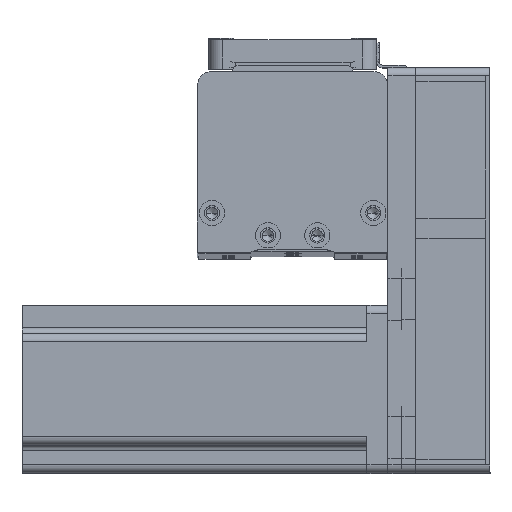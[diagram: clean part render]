
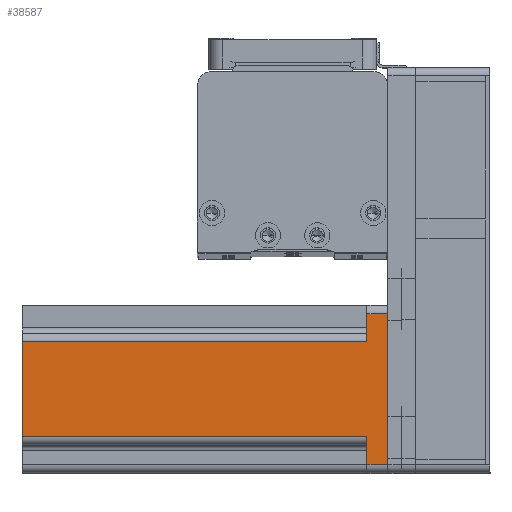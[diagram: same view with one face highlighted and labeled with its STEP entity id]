
A CAD part, top view. The second image highlights one B-rep face of the part: STEP entity #38587.
In plain terms, the highlighted planar face has unit normal (0, 0, 1) as drawn and (0, 1, 0) by its records, which use the part's own axes.
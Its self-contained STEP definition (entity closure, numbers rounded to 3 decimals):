
#1558 = DIRECTION ( 'NONE',  ( 0., -1., 0. ) ) ;
#2167 = AXIS2_PLACEMENT_3D ( 'NONE', #24987, #1558, #28886 ) ;
#3374 = VECTOR ( 'NONE', #13926, 1000. ) ;
#3527 = ORIENTED_EDGE ( 'NONE', *, *, #9692, .T. ) ;
#3629 = CARTESIAN_POINT ( 'NONE',  ( 20., 30., 7.5 ) ) ;
#4156 = VECTOR ( 'NONE', #20817, 1000. ) ;
#4801 = VERTEX_POINT ( 'NONE', #24114 ) ;
#6264 = CARTESIAN_POINT ( 'NONE',  ( 27., 30., 130.7 ) ) ;
#6864 = ORIENTED_EDGE ( 'NONE', *, *, #34285, .T. ) ;
#7668 = LINE ( 'NONE', #42412, #37571 ) ;
#9428 = ORIENTED_EDGE ( 'NONE', *, *, #39142, .T. ) ;
#9692 = EDGE_CURVE ( 'NONE', #16127, #4801, #34641, .T. ) ;
#10961 = DIRECTION ( 'NONE',  ( 0., 0., -1. ) ) ;
#12413 = VECTOR ( 'NONE', #10961, 1000. ) ;
#13619 = CARTESIAN_POINT ( 'NONE',  ( 17., 30., 130.7 ) ) ;
#13926 = DIRECTION ( 'NONE',  ( 0., 0., 1. ) ) ;
#14854 = CARTESIAN_POINT ( 'NONE',  ( 17., 30., 130.7 ) ) ;
#15737 = EDGE_CURVE ( 'NONE', #19711, #16127, #45846, .T. ) ;
#16127 = VERTEX_POINT ( 'NONE', #29611 ) ;
#16821 = CARTESIAN_POINT ( 'NONE',  ( -27., 30., 130.7 ) ) ;
#17720 = VERTEX_POINT ( 'NONE', #13619 ) ;
#19040 = DIRECTION ( 'NONE',  ( 1., 0., 0. ) ) ;
#19711 = VERTEX_POINT ( 'NONE', #25235 ) ;
#20010 = ORIENTED_EDGE ( 'NONE', *, *, #33253, .T. ) ;
#20817 = DIRECTION ( 'NONE',  ( 0., 0., 1. ) ) ;
#22888 = DIRECTION ( 'NONE',  ( -1., 0., 0. ) ) ;
#24114 = CARTESIAN_POINT ( 'NONE',  ( -27., 30., 0. ) ) ;
#24987 = CARTESIAN_POINT ( 'NONE',  ( 30., 30., 130.7 ) ) ;
#25235 = CARTESIAN_POINT ( 'NONE',  ( 27., 30., 7.5 ) ) ;
#27104 = ORIENTED_EDGE ( 'NONE', *, *, #49060, .F. ) ;
#27475 = VECTOR ( 'NONE', #35001, 1000. ) ;
#27546 = DIRECTION ( 'NONE',  ( -1., 0., 0. ) ) ;
#27952 = ORIENTED_EDGE ( 'NONE', *, *, #45442, .T. ) ;
#28640 = EDGE_LOOP ( 'NONE', ( #20010, #27952, #42801, #6864, #27104, #36590, #3527, #9428 ) ) ;
#28886 = DIRECTION ( 'NONE',  ( 1., 0., 0. ) ) ;
#29611 = CARTESIAN_POINT ( 'NONE',  ( 27., 30., 0. ) ) ;
#29648 = DIRECTION ( 'NONE',  ( 0., 0., -1. ) ) ;
#30854 = LINE ( 'NONE', #31457, #42433 ) ;
#31457 = CARTESIAN_POINT ( 'NONE',  ( 30., 30., 130.7 ) ) ;
#33004 = VECTOR ( 'NONE', #29648, 1000. ) ;
#33196 = LINE ( 'NONE', #14854, #12413 ) ;
#33253 = EDGE_CURVE ( 'NONE', #48889, #42379, #7668, .T. ) ;
#33407 = VECTOR ( 'NONE', #22888, 1000. ) ;
#33982 = CARTESIAN_POINT ( 'NONE',  ( -27., 30., 7.5 ) ) ;
#34285 = EDGE_CURVE ( 'NONE', #17720, #41328, #33196, .T. ) ;
#34483 = LINE ( 'NONE', #37311, #3374 ) ;
#34641 = LINE ( 'NONE', #38381, #33407 ) ;
#35001 = DIRECTION ( 'NONE',  ( -1., 0., 0. ) ) ;
#35859 = PLANE ( 'NONE',  #2167 ) ;
#36590 = ORIENTED_EDGE ( 'NONE', *, *, #15737, .T. ) ;
#37311 = CARTESIAN_POINT ( 'NONE',  ( -17., 30., 130.7 ) ) ;
#37571 = VECTOR ( 'NONE', #19040, 1000. ) ;
#37845 = LINE ( 'NONE', #3629, #27475 ) ;
#38381 = CARTESIAN_POINT ( 'NONE',  ( 30., 30., 0. ) ) ;
#38469 = EDGE_CURVE ( 'NONE', #17720, #48826, #30854, .T. ) ;
#38587 = ADVANCED_FACE ( 'NONE', ( #46730 ), #35859, .F. ) ;
#38983 = CARTESIAN_POINT ( 'NONE',  ( -17., 30., 7.5 ) ) ;
#39142 = EDGE_CURVE ( 'NONE', #4801, #48889, #45672, .T. ) ;
#40387 = CARTESIAN_POINT ( 'NONE',  ( 17., 30., 7.5 ) ) ;
#41291 = CARTESIAN_POINT ( 'NONE',  ( -17., 30., 130.7 ) ) ;
#41328 = VERTEX_POINT ( 'NONE', #40387 ) ;
#42379 = VERTEX_POINT ( 'NONE', #38983 ) ;
#42412 = CARTESIAN_POINT ( 'NONE',  ( -20., 30., 7.5 ) ) ;
#42433 = VECTOR ( 'NONE', #27546, 1000. ) ;
#42801 = ORIENTED_EDGE ( 'NONE', *, *, #38469, .F. ) ;
#45442 = EDGE_CURVE ( 'NONE', #42379, #48826, #34483, .T. ) ;
#45672 = LINE ( 'NONE', #16821, #4156 ) ;
#45846 = LINE ( 'NONE', #6264, #33004 ) ;
#46730 = FACE_OUTER_BOUND ( 'NONE', #28640, .T. ) ;
#48826 = VERTEX_POINT ( 'NONE', #41291 ) ;
#48889 = VERTEX_POINT ( 'NONE', #33982 ) ;
#49060 = EDGE_CURVE ( 'NONE', #19711, #41328, #37845, .T. ) ;
